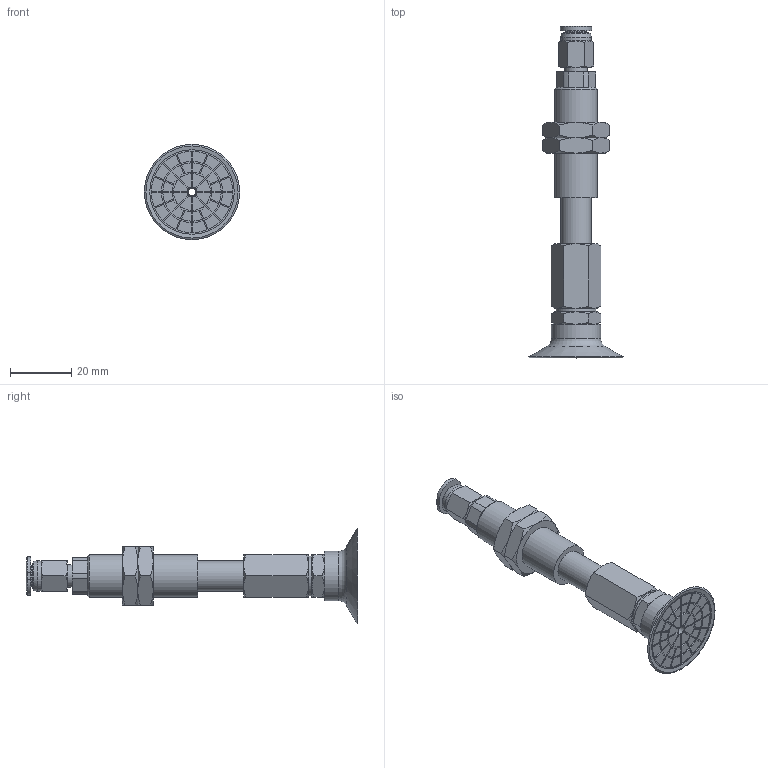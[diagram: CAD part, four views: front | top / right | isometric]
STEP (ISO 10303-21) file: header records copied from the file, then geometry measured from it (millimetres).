
FILE_DESCRIPTION(('STEP AP203'),'1');
FILE_NAME('-O.stp','2025-08-26T09:08:28',(' '),(' '),'Spatial InterOp 3D',' ',' ');
FILE_SCHEMA(('CONFIG_CONTROL_DESIGN'));
Length unit declared in the file: millimetre
Products named in the file (8): BNABPATS-30B-15-※-O; ADAPTER; NAPATS-30B-15--M; NAPATS-30B-15--F; Nut-25-S; TN-PA-30B-M6; PC-C_06-M5; BPAG-30B-※_3D
Assembly tree (8 placements, depth 2):
  BNABPATS-30B-15-※-O
    ADAPTER
    NAPATS-30B-15--M
    NAPATS-30B-15--F
    Nut-25-S  x2
    TN-PA-30B-M6
    PC-C_06-M5
    BPAG-30B-※_3D
Bounding box: 31.04 x 108.18 x 31.04 mm (x, y, z)
Volume: 15979 mm3; surface area: 13185.2 mm2
Topology: 7 solids, 10 shells, 399 faces, 914 edges, 581 vertices
Faces by surface type: plane 202, cylinder 106, cone 76, torus 8, bspline 4, revolution 3
Full cylindrical faces by diameter (mm): 2.5 x1, 3 x3, 4 x2, 4.134 x1, 4.917 x1, 5 x1, 6 x3, 7 x1, 7.4 x1, 8.2 x1, 10 x5, 12.917 x2, 13 x1, 14 x1, 16 x1, 27.5 x1
Entity records: 11197 total; most frequent: CARTESIAN_POINT 2470, DIRECTION 1764, ORIENTED_EDGE 1612, EDGE_CURVE 808, AXIS2_PLACEMENT_3D 678, VERTEX_POINT 544, EDGE_LOOP 486, LINE 405
